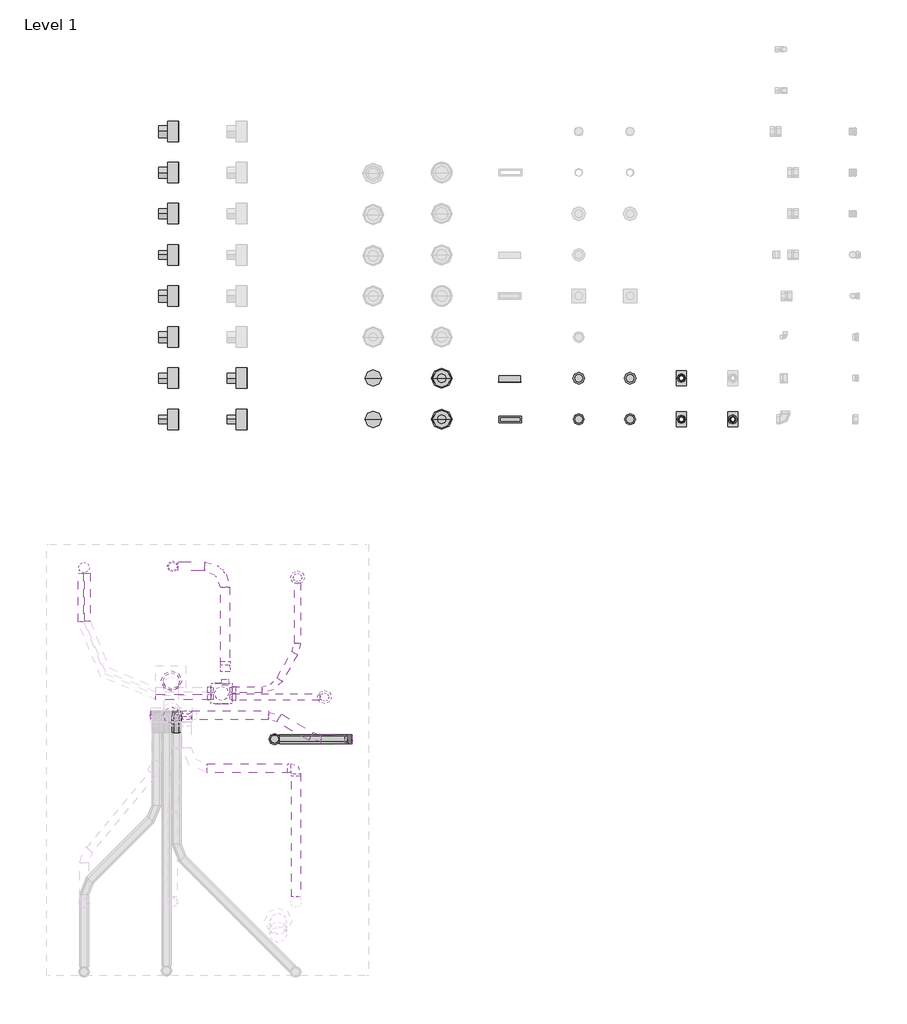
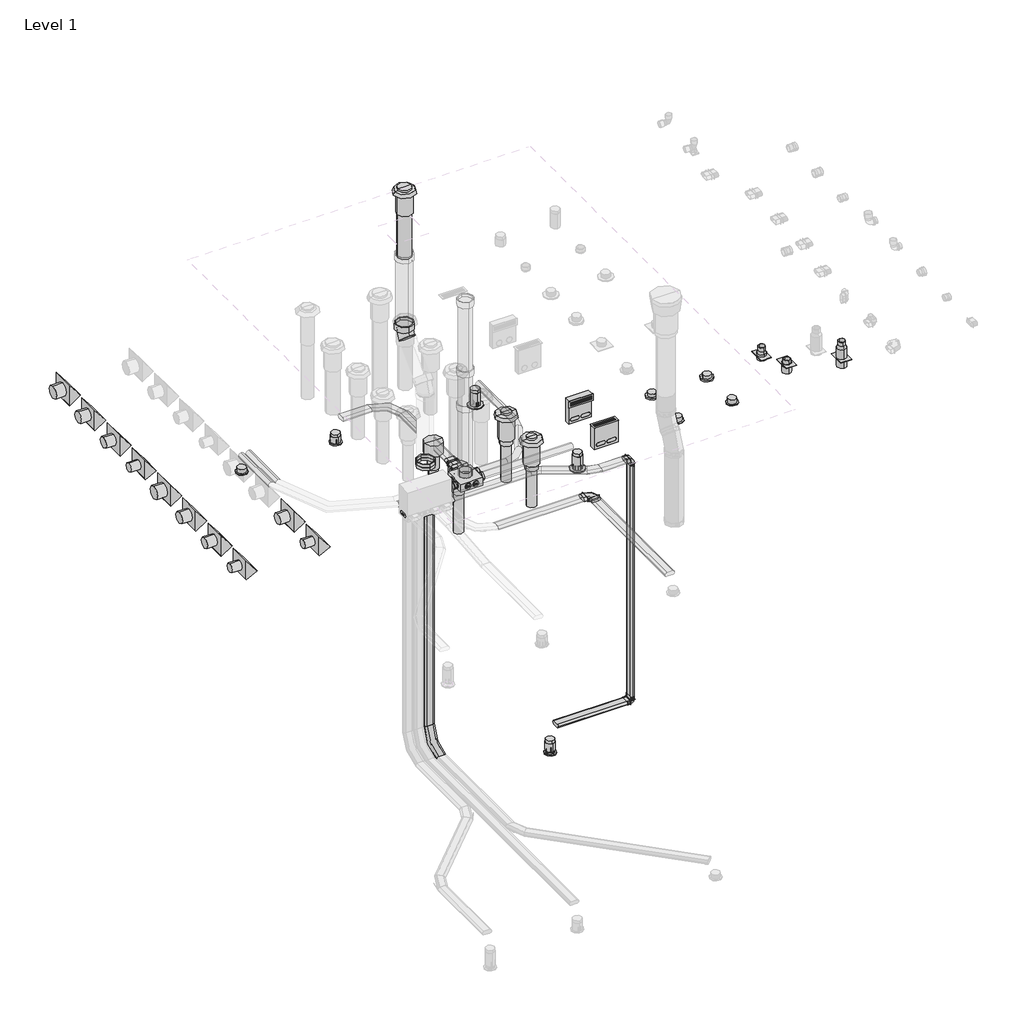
# One storey, part 2 of 5: 28 air terminals, 27 duct segments, 25 duct fittings, 1 covering.
"""IFC4 building model written with IfcOpenShell, lengths in millimetres."""

from ifc_helpers import new_model, si_unit, point, frame, frame_2d, origin, place, context, project, spatial, polyline, circle_curve, trimmed, segment, composite_curve, outline, extrude, transform, mapped, element, save
from components import air_terminal_684b394b, air_terminal_d9da2656, air_terminal_5d0dc36f, air_terminal_abea36ea, air_terminal_f5742492, air_terminal_9fb1d9b7, air_terminal_ad92f96e, black_125_071c14e0, black_150_34886671, black_160_5426341e, black_180_da10aded, disc_9b21ed11, floor_plenum_26bd6e9d, grille_332x94_5d2099c3, wall_plenum_481a3a47, wave_6b82bb6b, covering_845dcc57, duct_fitting_a03f7b8a, duct_fitting_80feda44, duct_fitting_af19edac, duct_fitting_265251c9, duct_fitting_0a36da2e, duct_fitting_a33ba128, duct_fitting_7ef48b03, duct_fitting_5a710104, duct_fitting_66600ef7, duct_fitting_84124fbc, duct_fitting_f3df8d97, duct_fitting_132x52_fc9fea9f, duct_fitting_132x52_0ce7a236, duct_fitting_132x52_95183a23, duct_fitting_132x52_nested_272e3c26, epp_d34e0886, duct_segment_ae39d81a, duct_segment_a98b25c4, duct_segment_a7808f3f, duct_segment_35683ce1, duct_segment_1deb6c9c, extract_132x52_red_0ccfaded, supply_132x52_blue_ae1e8619, supply_132x52_blue_a913f8ed

model = new_model("IFC4")

# Units and contexts
model_context = context("Model", 3, world=origin())
ifc_project = project(units=[si_unit("LENGTHUNIT", "METRE", prefix="MILLI")], contexts=[model_context])

# Site, building, storey
site = spatial("IfcSite", under=ifc_project)
building = spatial("IfcBuilding", under=site)
storey = spatial("IfcBuildingStorey", under=building, Name="Level 1", Elevation=0.0)

# Air terminals
placement = place(None, origin())
air_terminal_shape = air_terminal_684b394b(model_context)
element("IfcAirTerminal", 1, ObjectType="NLRS_57_AIR_WPB_roof ventilation terminals_M&G : EPS Black, ø125 - L=1000mm", at=placement, inside=storey, context=model_context, shape_type="MappedRepresentation", body=[
    mapped(air_terminal_shape, transform((-12492.1903803, 6819.2351178, 0.0), x_axis=(1.0, 0.0, 0.0), y_axis=(0.0, 1.0, 0.0), z_axis=(0.0, 0.0, 1.0))),
])
air_terminal_2_shape = air_terminal_d9da2656(model_context)
element("IfcAirTerminal", 2, ObjectType="NLRS_57_AIR_WPB_roof ventilation terminals_M&G : EPS Black, ø130 - L=1000mm", at=placement, inside=storey, context=model_context, shape_type="MappedRepresentation", body=[
    mapped(air_terminal_2_shape, transform((-12492.1903803, 7419.2351178, 0.0), x_axis=(1.0, 0.0, 0.0), y_axis=(0.0, 1.0, 0.0), z_axis=(0.0, 0.0, 1.0))),
])
air_terminal_3_shape = air_terminal_5d0dc36f(model_context)
element("IfcAirTerminal", 3, ObjectType="NLRS_57_AIR_WPB_megavent roof ventilation terminals_M&G : PP Black, ø125", at=placement, inside=storey, context=model_context, shape_type="MappedRepresentation", body=[
    mapped(air_terminal_3_shape, transform((-13492.1903803, 6819.2351178, 0.0), x_axis=(1.0, 0.0, 0.0), y_axis=(0.0, 1.0, 0.0), z_axis=(0.0, 0.0, 1.0))),
])
element("IfcAirTerminal", 4, ObjectType="NLRS_57_AIR_WPB_megavent roof ventilation terminals_M&G : PP Terra, ø125", at=placement, inside=storey, context=model_context, shape_type="MappedRepresentation", body=[
    mapped(air_terminal_3_shape, transform((-13492.1903803, 7419.2351178, 0.0), x_axis=(1.0, 0.0, 0.0), y_axis=(0.0, 1.0, 0.0), z_axis=(0.0, 0.0, 1.0))),
])
air_terminal_4_shape = air_terminal_abea36ea(model_context)
element("IfcAirTerminal", 5, ObjectType="NLRS_57_AIR_WPB_roof ventilation terminals_M&G : EPS Black, ø180 - L=1000mm", at=placement, inside=storey, context=model_context, shape_type="MappedRepresentation", body=[
    mapped(air_terminal_4_shape, transform((-16438.4693878, 3001.6183718, 7412.0589956), x_axis=(1.0, 0.0, 0.0), y_axis=(0.0, 1.0, 0.0), z_axis=(0.0, 0.0, 1.0))),
])
air_terminal_5_shape = air_terminal_f5742492(model_context)
element("IfcAirTerminal", 6, ObjectType="NLRS_57_AIR_WPB_extraction air valve_M&G : Kwadrant", at=placement, inside=storey, context=model_context, shape_type="MappedRepresentation", body=[
    mapped(air_terminal_5_shape, transform((-16418.4693878, 4670.9337944, 3067.0932214), x_axis=(1.0, 0.0, 0.0), y_axis=(0.0, 1.0, 0.0), z_axis=(0.0, 0.0, 1.0))),
])
air_terminal_6_shape = air_terminal_9fb1d9b7(model_context)
element("IfcAirTerminal", 7, ObjectType="NLRS_57_AIR_WPB_extraction air valve_M&G : Conus", at=placement, inside=storey, context=model_context, shape_type="MappedRepresentation", body=[
    mapped(air_terminal_6_shape, transform((-17715.4983661, 4654.1857295, 3098.9990448), x_axis=(1.0, 0.0, 0.0), y_axis=(0.0, 1.0, 0.0), z_axis=(0.0, 0.0, 1.0))),
])
air_terminal_7_shape = air_terminal_ad92f96e(model_context)
element("IfcAirTerminal", 8, ObjectType="NLRS_57_AIR_WPB_supply air valve_M&G : Conus", at=placement, inside=storey, context=model_context, shape_type="MappedRepresentation", body=[
    mapped(air_terminal_7_shape, transform((-14932.7818193, 2151.6938776, -388.9153196), x_axis=(1.0, 0.0, 0.0), y_axis=(0.0, 1.0, 0.0), z_axis=(0.0, 0.0, 1.0))),
])
element("IfcAirTerminal", 9, ObjectType="NLRS_57_AIR_WPB_extraction air valve_M&G : Conus", at=placement, inside=storey, context=model_context, shape_type="MappedRepresentation", body=[
    mapped(air_terminal_6_shape, transform((-10492.1903803, 6819.2351178, 0.0), x_axis=(1.0, 0.0, 0.0), y_axis=(0.0, 1.0, 0.0), z_axis=(0.0, 0.0, 1.0))),
])
element("IfcAirTerminal", 10, ObjectType="NLRS_57_AIR_WPB_supply air valve_M&G : Conus", at=placement, inside=storey, context=model_context, shape_type="MappedRepresentation", body=[
    mapped(air_terminal_6_shape, transform((-9742.1903803, 6819.2351178, 0.0), x_axis=(1.0, 0.0, 0.0), y_axis=(0.0, 1.0, 0.0), z_axis=(0.0, 0.0, 1.0))),
])
black_125_shape = black_125_071c14e0(model_context)
element("IfcAirTerminal", 11, ObjectType="NLRS_57_AIR_LB_walloutlet terminals_M&G : Black 125", at=placement, inside=storey, context=model_context, shape_type="MappedRepresentation", body=[
    mapped(black_125_shape, transform((-16492.1903803, 6819.2351178, 0.0), x_axis=(1.0, 0.0, 0.0), y_axis=(0.0, 1.0, 0.0), z_axis=(0.0, 0.0, 1.0))),
])
black_150_shape = black_150_34886671(model_context)
element("IfcAirTerminal", 12, ObjectType="NLRS_57_AIR_LB_walloutlet terminals_M&G : Black 150", at=placement, inside=storey, context=model_context, shape_type="MappedRepresentation", body=[
    mapped(black_150_shape, transform((-16492.1903803, 7419.2351178, 0.0), x_axis=(1.0, 0.0, 0.0), y_axis=(0.0, 1.0, 0.0), z_axis=(0.0, 0.0, 1.0))),
])
black_160_shape = black_160_5426341e(model_context)
element("IfcAirTerminal", 13, ObjectType="NLRS_57_AIR_LB_walloutlet terminals_M&G : Black 160", at=placement, inside=storey, context=model_context, shape_type="MappedRepresentation", body=[
    mapped(black_160_shape, transform((-16492.1903803, 8019.2351178, 0.0), x_axis=(1.0, 0.0, 0.0), y_axis=(0.0, 1.0, 0.0), z_axis=(0.0, 0.0, 1.0))),
])
black_180_shape = black_180_da10aded(model_context)
element("IfcAirTerminal", 14, ObjectType="NLRS_57_AIR_LB_walloutlet terminals_M&G : Black 180", at=placement, inside=storey, context=model_context, shape_type="MappedRepresentation", body=[
    mapped(black_180_shape, transform((-16492.1903803, 8619.2351178, 0.0), x_axis=(1.0, 0.0, 0.0), y_axis=(0.0, 1.0, 0.0), z_axis=(0.0, 0.0, 1.0))),
])
disc_shape = disc_9b21ed11(model_context)
element("IfcAirTerminal", 15, ObjectType="NLRS_57_AIR_WPB_extraction air valve_M&G : Disc", at=placement, inside=storey, context=model_context, shape_type="MappedRepresentation", body=[
    mapped(disc_shape, transform((-10492.1903803, 7419.2351178, 0.0), x_axis=(1.0, 0.0, 0.0), y_axis=(0.0, 1.0, 0.0), z_axis=(0.0, 0.0, 1.0))),
])
element("IfcAirTerminal", 16, ObjectType="NLRS_57_AIR_WPB_supply air valve_M&G : Disc", at=placement, inside=storey, context=model_context, shape_type="MappedRepresentation", body=[
    mapped(disc_shape, transform((-9742.1903803, 7419.2351178, 0.0), x_axis=(1.0, 0.0, 0.0), y_axis=(0.0, 1.0, 0.0), z_axis=(0.0, 0.0, 1.0))),
])
floor_plenum_shape = floor_plenum_26bd6e9d(model_context)
element("IfcAirTerminal", 17, ObjectType="NLRS_57_AIR_LB_wall_floor mounted plenum oval with grill_M&G : Floor plenum", at=placement, inside=storey, context=model_context, shape_type="MappedRepresentation", body=[
    mapped(floor_plenum_shape, transform((-11492.1903803, 6819.2351178, 0.0), x_axis=(1.0, 0.0, 0.0), y_axis=(0.0, 1.0, 0.0), z_axis=(0.0, 0.0, 1.0))),
])
grille_332x94_shape = grille_332x94_5d2099c3(model_context)
element("IfcAirTerminal", 18, ObjectType="NLRS_57_AIR_WPB_grille for plenum_M&G : Grille 332x94", at=placement, inside=storey, context=model_context, shape_type="MappedRepresentation", body=[
    mapped(grille_332x94_shape, transform((-11492.1903803, 6819.2351178, 310.0), x_axis=(1.0, 0.0, 0.0), y_axis=(0.0, -1.0, 0.0), z_axis=(0.0, 0.0, -1.0))),
])
element("IfcAirTerminal", 19, ObjectType="NLRS_57_AIR_WPB_grille for plenum_M&G : Grille 332x94", at=placement, inside=storey, context=model_context, shape_type="MappedRepresentation", body=[
    mapped(grille_332x94_shape, transform((-11500.4403803, 7365.7351178, 297.0), x_axis=(1.0, 0.0, 0.0), y_axis=(0.0, 0.0, -1.0), z_axis=(0.0, 1.0, 0.0))),
])
element("IfcAirTerminal", 20, ObjectType="NLRS_57_AIR_LB_walloutlet terminals_M&G : Terracotta 125", at=placement, inside=storey, context=model_context, shape_type="MappedRepresentation", body=[
    mapped(black_125_shape, transform((-16492.1903803, 9219.2351178, 0.0), x_axis=(1.0, 0.0, 0.0), y_axis=(0.0, 1.0, 0.0), z_axis=(0.0, 0.0, 1.0))),
])
element("IfcAirTerminal", 21, ObjectType="NLRS_57_AIR_LB_walloutlet terminals_M&G : Terracotta 150", at=placement, inside=storey, context=model_context, shape_type="MappedRepresentation", body=[
    mapped(black_150_shape, transform((-16492.1903803, 9819.2351178, 0.0), x_axis=(1.0, 0.0, 0.0), y_axis=(0.0, 1.0, 0.0), z_axis=(0.0, 0.0, 1.0))),
])
element("IfcAirTerminal", 22, ObjectType="NLRS_57_AIR_LB_walloutlet terminals_M&G : Terracotta 160", at=placement, inside=storey, context=model_context, shape_type="MappedRepresentation", body=[
    mapped(black_160_shape, transform((-16492.1903803, 10419.2351178, 0.0), x_axis=(1.0, 0.0, 0.0), y_axis=(0.0, 1.0, 0.0), z_axis=(0.0, 0.0, 1.0))),
])
element("IfcAirTerminal", 23, ObjectType="NLRS_57_AIR_LB_walloutlet terminals_M&G : Terracotta 180", at=placement, inside=storey, context=model_context, shape_type="MappedRepresentation", body=[
    mapped(black_180_shape, transform((-16492.1903803, 11019.2351178, 0.0), x_axis=(1.0, 0.0, 0.0), y_axis=(0.0, 1.0, 0.0), z_axis=(0.0, 0.0, 1.0))),
])
element("IfcAirTerminal", 24, ObjectType="NLRS_57_AIR_LB_walloutlet terminals_M&G : Unpainted aluminium 125", at=placement, inside=storey, context=model_context, shape_type="MappedRepresentation", body=[
    mapped(black_125_shape, transform((-15492.1903803, 6819.2351178, 0.0), x_axis=(1.0, 0.0, 0.0), y_axis=(0.0, 1.0, 0.0), z_axis=(0.0, 0.0, 1.0))),
])
element("IfcAirTerminal", 25, ObjectType="NLRS_57_AIR_LB_walloutlet terminals_M&G : Unpainted aluminium 150", at=placement, inside=storey, context=model_context, shape_type="MappedRepresentation", body=[
    mapped(black_150_shape, transform((-15492.1903803, 7419.2351178, 0.0), x_axis=(1.0, 0.0, 0.0), y_axis=(0.0, 1.0, 0.0), z_axis=(0.0, 0.0, 1.0))),
])
wall_plenum_shape = wall_plenum_481a3a47(model_context)
element("IfcAirTerminal", 26, ObjectType="NLRS_57_AIR_LB_wall_floor mounted plenum oval with grill_M&G : Wall plenum", at=placement, inside=storey, context=model_context, shape_type="MappedRepresentation", body=[
    mapped(wall_plenum_shape, transform((-11500.4403803, 7419.2351178, 0.0), x_axis=(1.0, 0.0, 0.0), y_axis=(0.0, 1.0, 0.0), z_axis=(0.0, 0.0, 1.0))),
])
ifc_wave_shape = wave_6b82bb6b(model_context)
element("IfcAirTerminal", 27, ObjectType="NLRS_57_AIR_WPB_extraction air valve_M&G : Wave", at=placement, inside=storey, context=model_context, shape_type="MappedRepresentation", body=[
    mapped(ifc_wave_shape, transform((-14596.7967228, 4509.430033, 3061.5), x_axis=(1.0, 0.0, 0.0), y_axis=(0.0, 1.0, 0.0), z_axis=(0.0, 0.0, 1.0))),
])
element("IfcAirTerminal", 28, ObjectType="NLRS_57_AIR_WPB_extraction air valve_M&G : Wave", at=placement, inside=storey, context=model_context, shape_type="MappedRepresentation", body=[
    mapped(ifc_wave_shape, transform((-14202.8736216, 2765.7568536, 3061.5), x_axis=(1.0, 0.0, 0.0), y_axis=(0.0, 1.0, 0.0), z_axis=(0.0, 0.0, 1.0))),
])

# Covering
covering_shape = covering_845dcc57(model_context)
element("IfcCovering", 29, ObjectType="NLRS_57_DUF_UN_valve extension_M&G : L=40", at=placement, inside=storey, context=model_context, shape_type="MappedRepresentation", body=[
    mapped(covering_shape, transform((-14932.7818193, 2151.6938776, -428.9153196), x_axis=(1.0, 0.0, 0.0), y_axis=(0.0, 1.0, 0.0), z_axis=(0.0, 0.0, 1.0))),
])

# Duct fittings
duct_fitting_shape = duct_fitting_a03f7b8a(model_context)
element("IfcDuctFitting", 30, ObjectType="NLRS_57_DUF_UN_terminal connection straight_M&G : ø117 - ø125 / ø92", at=placement, inside=storey, context=model_context, shape_type="MappedRepresentation", body=[
    mapped(duct_fitting_shape, transform((-8242.1903803, 6819.2351178, 360.0), x_axis=(0.0, 0.0, -1.0000000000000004), y_axis=(0.0, 1.0000000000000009, 0.0), z_axis=(1.0000000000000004, 0.0, 0.0))),
])
duct_fitting_2_shape = duct_fitting_80feda44(model_context)
element("IfcDuctFitting", 31, ObjectType="NLRS_57_DUF_UN_terminal extension_M&G : 117/125mm", at=placement, inside=storey, context=model_context, shape_type="MappedRepresentation", body=[
    mapped(duct_fitting_2_shape, transform((-14932.7818193, 2151.6938776, -388.9153196), x_axis=(0.0, 0.0, 1.0), y_axis=(0.0, -1.0, 0.0), z_axis=(1.0, 0.0, 0.0))),
])
duct_fitting_3_shape = duct_fitting_af19edac(model_context)
element("IfcDuctFitting", 32, ObjectType="NLRS_57_DUF_UN_bend EPP_M&G : ø125 - ø180", at=placement, inside=storey, context=model_context, shape_type="MappedRepresentation", body=[
    mapped(duct_fitting_3_shape, transform((-16438.4693878, 3001.6183718, 5679.0589956), x_axis=(0.0, 0.7071067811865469, 0.7071067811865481), y_axis=(0.0, -0.7071067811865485, 0.7071067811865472), z_axis=(1.0000000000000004, 0.0, 0.0))),
])
duct_fitting_4_shape = duct_fitting_265251c9(model_context)
element("IfcDuctFitting", 33, ObjectType="NLRS_57_DUF_UN_air extraction plenum square 300x300_M&G : 225#8 (H=110)", at=placement, inside=storey, context=model_context, shape_type="MappedRepresentation", body=[
    mapped(duct_fitting_4_shape, transform((-15705.9803294, 2818.2568536, 3343.5), x_axis=(1.0, 0.0, 0.0), y_axis=(0.0, 1.0, 0.0), z_axis=(0.0, 0.0, 1.0))),
])
duct_fitting_5_shape = duct_fitting_0a36da2e(model_context)
element("IfcDuctFitting", 34, ObjectType="NLRS_57_DUF_UN_terminal extension_M&G : 117/125mm", at=placement, inside=storey, context=model_context, shape_type="MappedRepresentation", body=[
    mapped(duct_fitting_5_shape, transform((-14596.7967228, 4509.430033, 3061.5), x_axis=(0.0, 0.0, 1.0), y_axis=(0.0, -1.0, 0.0), z_axis=(1.0, 0.0, 0.0))),
])
element("IfcDuctFitting", 35, ObjectType="NLRS_57_DUF_UN_terminal extension_M&G : 117/125mm", at=placement, inside=storey, context=model_context, shape_type="MappedRepresentation", body=[
    mapped(duct_fitting_5_shape, transform((-14202.8736216, 2765.7568536, 3061.5), x_axis=(0.0, 0.0, 1.0), y_axis=(0.0, -1.0, 0.0), z_axis=(1.0, 0.0, 0.0))),
])
duct_fitting_6_shape = duct_fitting_a33ba128(model_context)
element("IfcDuctFitting", 36, ObjectType="NLRS_57_DUF_UN_terminal extension_M&G : 117/125mm", at=placement, inside=storey, context=model_context, shape_type="MappedRepresentation", body=[
    mapped(duct_fitting_6_shape, transform((-16418.4693878, 4670.9337944, 3067.0932214), x_axis=(0.0, 0.0, 1.0), y_axis=(0.0, -1.0, 0.0), z_axis=(1.0, 0.0, 0.0))),
])
duct_fitting_7_shape = duct_fitting_7ef48b03(model_context)
element("IfcDuctFitting", 37, ObjectType="NLRS_57_DUF_UN_terminal connection straight_M&G : ø117 - ø125 / ø92", at=placement, inside=storey, context=model_context, shape_type="MappedRepresentation", body=[
    mapped(duct_fitting_7_shape, transform((-8992.1903803, 7419.2351178, 180.0), x_axis=(0.0, 0.0, -1.0000000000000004), y_axis=(0.0, 1.0000000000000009, 0.0), z_axis=(1.0000000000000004, 0.0, 0.0))),
])
duct_fitting_8_shape = duct_fitting_5a710104(model_context)
element("IfcDuctFitting", 38, ObjectType="NLRS_57_DUF_UN_terminal connection straight_M&G : ø117 - ø125 / ø92", at=placement, inside=storey, context=model_context, shape_type="MappedRepresentation", body=[
    mapped(duct_fitting_8_shape, transform((-8992.1903803, 6819.2351178, 360.0), x_axis=(0.0, 0.0, -1.0000000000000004), y_axis=(0.0, 1.0000000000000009, 0.0), z_axis=(1.0000000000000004, 0.0, 0.0))),
])
duct_fitting_9_shape = duct_fitting_66600ef7(model_context)
element("IfcDuctFitting", 39, ObjectType="NLRS_57_DUF_UN_dummy cap round_M&G : ø78", at=placement, inside=storey, context=model_context, shape_type="MappedRepresentation", body=[
    mapped(duct_fitting_9_shape, transform((-15653.4803294, 2666.2568536, 3399.5), x_axis=(0.0, -1.0, 0.0), y_axis=(1.0, 0.0, 0.0), z_axis=(0.0, 0.0, 1.0))),
])
element("IfcDuctFitting", 40, ObjectType="NLRS_57_DUF_UN_dummy cap round_M&G : ø78", at=placement, inside=storey, context=model_context, shape_type="MappedRepresentation", body=[
    mapped(duct_fitting_9_shape, transform((-15758.4803294, 2666.2568536, 3399.5), x_axis=(0.0, -1.0, 0.0), y_axis=(1.0, 0.0, 0.0), z_axis=(0.0, 0.0, 1.0))),
])
element("IfcDuctFitting", 41, ObjectType="NLRS_57_DUF_UN_dummy cap round_M&G : ø78", at=placement, inside=storey, context=model_context, shape_type="MappedRepresentation", body=[
    mapped(duct_fitting_9_shape, transform((-15758.4803294, 2970.2568536, 3399.5), x_axis=(0.0, 1.0, 0.0), y_axis=(-1.0, 0.0, 0.0), z_axis=(0.0, 0.0, 1.0))),
])
duct_fitting_10_shape = duct_fitting_84124fbc(model_context)
element("IfcDuctFitting", 42, ObjectType="NLRS_57_DUF_UN_connection piece round_M&G : ø75", at=placement, inside=storey, context=model_context, shape_type="MappedRepresentation", body=[
    mapped(duct_fitting_10_shape, transform((-15857.9803294, 2870.7568536, 3399.5), x_axis=(-1.0, 0.0, 0.0), y_axis=(0.0, -1.0, 0.0), z_axis=(0.0, 0.0, 1.0))),
])
element("IfcDuctFitting", 43, ObjectType="NLRS_57_DUF_UN_connection piece round_M&G : ø75", at=placement, inside=storey, context=model_context, shape_type="MappedRepresentation", body=[
    mapped(duct_fitting_10_shape, transform((-15857.9803294, 2765.7568536, 3399.5), x_axis=(-1.0, 0.0, 0.0), y_axis=(0.0, -1.0, 0.0), z_axis=(0.0, 0.0, 1.0))),
])
duct_fitting_11_shape = duct_fitting_f3df8d97(model_context)
element("IfcDuctFitting", 44, ObjectType="NLRS_57_DUF_UN_connection piece round_M&G : ø92", at=placement, inside=storey, context=model_context, shape_type="MappedRepresentation", body=[
    mapped(duct_fitting_11_shape, transform((-15553.9803294, 2870.7568536, 3399.5), x_axis=(1.0, 0.0, 0.0), y_axis=(0.0, 1.0, 0.0), z_axis=(0.0, 0.0, 1.0))),
])
element("IfcDuctFitting", 45, ObjectType="NLRS_57_DUF_UN_connection piece round_M&G : ø92", at=placement, inside=storey, context=model_context, shape_type="MappedRepresentation", body=[
    mapped(duct_fitting_11_shape, transform((-15553.9803294, 2765.7568536, 3399.5), x_axis=(1.0, 0.0, 0.0), y_axis=(0.0, 1.0, 0.0), z_axis=(0.0, 0.0, 1.0))),
])
element("IfcDuctFitting", 46, ObjectType="NLRS_57_DUF_UN_connection piece round_M&G : ø92", at=placement, inside=storey, context=model_context, shape_type="MappedRepresentation", body=[
    mapped(duct_fitting_11_shape, transform((-15653.4803294, 2970.2568536, 3399.5), x_axis=(0.0, 1.0, 0.0), y_axis=(-1.0, 0.0, 0.0), z_axis=(0.0, 0.0, 1.0))),
])
duct_fitting_132x52_shape = duct_fitting_132x52_fc9fea9f(model_context)
element("IfcDuctFitting", 47, ObjectType="NLRS_57_DUF_UN_bend horizontal_M&G : 132x52", at=placement, inside=storey, context=model_context, shape_type="MappedRepresentation", body=[
    mapped(duct_fitting_132x52_shape, transform((-14618.4693878, 1727.9337944, 3440.6345013), x_axis=(0.0, 1.0, 0.0), y_axis=(-1.0, 0.0, 0.0), z_axis=(0.0, 0.0, 1.0))),
])
duct_fitting_132x52_2_shape = duct_fitting_132x52_0ce7a236(model_context)
element("IfcDuctFitting", 48, ObjectType="NLRS_57_DUF_UN_bend vertical v2_M&G : 132x52", at=placement, inside=storey, context=model_context, shape_type="MappedRepresentation", body=[
    mapped(duct_fitting_132x52_2_shape, transform((-13831.2516051, 2151.6938776, 3440.6345013), x_axis=(1.0, 0.0, 0.0), y_axis=(0.0, 0.0, -1.0), z_axis=(0.0, 1.0, 0.0))),
])
element("IfcDuctFitting", 49, ObjectType="NLRS_57_DUF_UN_bend vertical v2_M&G : 132x52", at=placement, inside=storey, context=model_context, shape_type="MappedRepresentation", body=[
    mapped(duct_fitting_132x52_2_shape, transform((-13831.2516051, 2151.6938776, -54.0), x_axis=(0.0, 0.0, -1.0), y_axis=(-1.0, 0.0, 0.0), z_axis=(0.0, 1.0, 0.0))),
])
duct_fitting_132x52_3_shape = duct_fitting_132x52_95183a23(model_context)
element("IfcDuctFitting", 50, ObjectType="NLRS_57_DUF_UN_dummy cap oval_M&G : 132x52", at=placement, inside=storey, context=model_context, shape_type="MappedRepresentation", body=[
    mapped(duct_fitting_132x52_3_shape, transform((-16219.4693878, 2461.6938776, 3384.1345013), x_axis=(0.0, 0.0, -1.0), y_axis=(1.0, 0.0, 0.0), z_axis=(0.0, -1.0, 0.0))),
])
element("IfcDuctFitting", 51, ObjectType="NLRS_57_DUF_UN_dummy cap oval_M&G : 132x52", at=placement, inside=storey, context=model_context, shape_type="MappedRepresentation", body=[
    mapped(duct_fitting_132x52_3_shape, transform((-16219.4693878, 2541.6938776, 3384.1345013), x_axis=(0.0, 0.0, -1.0), y_axis=(1.0, 0.0, 0.0), z_axis=(0.0, -1.0, 0.0))),
])
element("IfcDuctFitting", 52, ObjectType="NLRS_57_DUF_UN_dummy cap oval_M&G : 132x52", at=placement, inside=storey, context=model_context, shape_type="MappedRepresentation", body=[
    mapped(duct_fitting_132x52_3_shape, transform((-16739.4693878, 2501.6938776, 3440.6345013), x_axis=(-1.0, 0.0, 0.0), y_axis=(0.0, -1.0, 0.0), z_axis=(0.0, 0.0, 1.0))),
])
duct_fitting_132x52_nested_shape = duct_fitting_132x52_nested_272e3c26(model_context)
element("IfcDuctFitting", 53, ObjectType="NLRS_57_DUF_UN_sleeve joint oval-SH_M&G : 132x52 (nested)", at=placement, inside=storey, context=model_context, shape_type="MappedRepresentation", body=[
    mapped(duct_fitting_132x52_nested_shape, transform((-15653.4803294, 3210.7568536, 3376.5), x_axis=(0.0, -1.0, 0.0), y_axis=(-1.0, 0.0, 0.0), z_axis=(0.0, 0.0, -1.0))),
])
epp_shape = epp_d34e0886(model_context)
element("IfcDuctFitting", 54, ObjectType="NLRS_57_DUF_UN_sleeve joint EPP_M&G : EPP", at=placement, inside=storey, context=model_context, shape_type="MappedRepresentation", body=[
    mapped(epp_shape, transform((-16438.4693878, 2501.6938776, 4082.6345013), x_axis=(0.0, 0.0, 1.0), y_axis=(0.0, -1.0, 0.0), z_axis=(1.0, 0.0, 0.0))),
])

# Duct segments
element("IfcDuctSegment", 55, ObjectType="NLRS_57.40_DU_Hybalans supply_M&G", at=placement, inside=storey, context=model_context, shape_type="SweptSolid", body=[
    extrude(outline(composite_curve([segment(polyline([(2461.6938776, 3466.6345013), (2541.6938776, 3466.6345013)]), True, "CONTINUOUS"), segment(trimmed(circle_curve(frame_2d((2541.6938776, 3440.6345013)), 26.0), [point((2541.6938776, 3466.6345013))], [point((2567.6938776, 3440.6345013))], False, "CARTESIAN"), True, "CONTINUOUS"), segment(trimmed(circle_curve(frame_2d((2541.6938776, 3440.6345013)), 26.0), [point((2567.6938776, 3440.6345013))], [point((2541.6938776, 3414.6345013))], False, "CARTESIAN"), True, "CONTINUOUS"), segment(polyline([(2541.6938776, 3414.6345013), (2461.6938776, 3414.6345013)]), True, "CONTINUOUS"), segment(trimmed(circle_curve(frame_2d((2461.6938776, 3440.6345013)), 26.0), [point((2461.6938776, 3414.6345013))], [point((2435.6938776, 3440.6345013))], False, "CARTESIAN"), True, "CONTINUOUS"), segment(trimmed(circle_curve(frame_2d((2461.6938776, 3440.6345013)), 26.0), [point((2435.6938776, 3440.6345013))], [point((2461.6938776, 3466.6345013))], False, "CARTESIAN"), True, "CONTINUOUS")], self_intersect=False)), frame((-16137.4693878, 0.0, 0.0), z_axis=(1.0, 0.0, 0.0), x_axis=(0.0, 1.0, 0.0)), (0.0, 0.0, 1.0), 1119.6152423),
])
element("IfcDuctSegment", 56, ObjectType="NLRS_57.40_DU_Hybalans supply_M&G", at=placement, inside=storey, context=model_context, shape_type="SweptSolid", body=[
    extrude(outline(composite_curve([segment(trimmed(circle_curve(frame_2d((-40.0, -66.0)), 26.0), [point((-40.0, -92.0))], [point((-66.0, -66.0))], False, "CARTESIAN"), True, "CONTINUOUS"), segment(trimmed(circle_curve(frame_2d((-40.0, -66.0)), 26.0), [point((-66.0, -66.0))], [point((-40.0, -40.0))], False, "CARTESIAN"), True, "CONTINUOUS"), segment(polyline([(-40.0, -40.0), (40.0, -40.0)]), True, "CONTINUOUS"), segment(trimmed(circle_curve(frame_2d((40.0, -66.0)), 26.0), [point((40.0, -40.0))], [point((66.0, -66.0))], False, "CARTESIAN"), True, "CONTINUOUS"), segment(trimmed(circle_curve(frame_2d((40.0, -66.0)), 26.0), [point((66.0, -66.0))], [point((40.0, -92.0))], False, "CARTESIAN"), True, "CONTINUOUS"), segment(polyline([(40.0, -92.0), (-40.0, -92.0)]), True, "CONTINUOUS")], self_intersect=False)), frame((-14400.8668474, 2191.8862564, 3374.6345013), z_axis=(-0.8660254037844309, 0.5000000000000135, 0.0), x_axis=(0.5000000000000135, 0.8660254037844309, 0.0)), (0.0, 0.0, 1.0), 539.2304845),
])
element("IfcDuctSegment", 57, ObjectType="NLRS_57.40_DU_Hybalans supply_M&G", at=placement, inside=storey, context=model_context, shape_type="SweptSolid", body=[
    extrude(outline(composite_curve([segment(polyline([(2111.6938776, 3466.6345013), (2191.6938776, 3466.6345013)]), True, "CONTINUOUS"), segment(trimmed(circle_curve(frame_2d((2191.6938776, 3440.6345013)), 26.0), [point((2191.6938776, 3466.6345013))], [point((2217.6938776, 3440.6345013))], False, "CARTESIAN"), True, "CONTINUOUS"), segment(trimmed(circle_curve(frame_2d((2191.6938776, 3440.6345013)), 26.0), [point((2217.6938776, 3440.6345013))], [point((2191.6938776, 3414.6345013))], False, "CARTESIAN"), True, "CONTINUOUS"), segment(polyline([(2191.6938776, 3414.6345013), (2111.6938776, 3414.6345013)]), True, "CONTINUOUS"), segment(trimmed(circle_curve(frame_2d((2111.6938776, 3440.6345013)), 26.0), [point((2111.6938776, 3414.6345013))], [point((2085.6938776, 3440.6345013))], False, "CARTESIAN"), True, "CONTINUOUS"), segment(trimmed(circle_curve(frame_2d((2111.6938776, 3440.6345013)), 26.0), [point((2085.6938776, 3440.6345013))], [point((2111.6938776, 3466.6345013))], False, "CARTESIAN"), True, "CONTINUOUS")], self_intersect=False)), frame((-14250.8668474, 0.0, 0.0), z_axis=(1.0, 0.0, 0.0), x_axis=(0.0, 1.0, 0.0)), (0.0, 0.0, 1.0), 384.6152423),
])
element("IfcDuctSegment", 58, ObjectType="NLRS_57.40_DU_Hybalans supply_M&G", at=placement, inside=storey, context=model_context, shape_type="SweptSolid", body=[
    extrude(outline(composite_curve([segment(trimmed(circle_curve(frame_2d((-13831.2516051, 2191.6938776)), 26.0), [point((-13857.2516051, 2191.6938776))], [point((-13831.2516051, 2217.6938776))], False, "CARTESIAN"), True, "CONTINUOUS"), segment(trimmed(circle_curve(frame_2d((-13831.2516051, 2191.6938776)), 26.0), [point((-13831.2516051, 2217.6938776))], [point((-13805.2516051, 2191.6938776))], False, "CARTESIAN"), True, "CONTINUOUS"), segment(polyline([(-13805.2516051, 2191.6938776), (-13805.2516051, 2111.6938776)]), True, "CONTINUOUS"), segment(trimmed(circle_curve(frame_2d((-13831.2516051, 2111.6938776)), 26.0), [point((-13805.2516051, 2111.6938776))], [point((-13831.2516051, 2085.6938776))], False, "CARTESIAN"), True, "CONTINUOUS"), segment(trimmed(circle_curve(frame_2d((-13831.2516051, 2111.6938776)), 26.0), [point((-13831.2516051, 2085.6938776))], [point((-13857.2516051, 2111.6938776))], False, "CARTESIAN"), True, "CONTINUOUS"), segment(polyline([(-13857.2516051, 2111.6938776), (-13857.2516051, 2191.6938776)]), True, "CONTINUOUS")], self_intersect=False)), frame((0.0, 0.0, -19.0), z_axis=(0.0, 0.0, 1.0), x_axis=(1.0, 0.0, 0.0)), (0.0, 0.0, 1.0), 3424.6345013),
])
element("IfcDuctSegment", 59, ObjectType="NLRS_57.40_DU_Hybalans supply_M&G", at=placement, inside=storey, context=model_context, shape_type="SweptSolid", body=[
    extrude(outline(composite_curve([segment(polyline([(3466.6345013, -14578.4693878), (3466.6345013, -14658.4693878)]), True, "CONTINUOUS"), segment(trimmed(circle_curve(frame_2d((3440.6345013, -14658.4693878)), 26.0), [point((3466.6345013, -14658.4693878))], [point((3440.6345013, -14684.4693878))], False, "CARTESIAN"), True, "CONTINUOUS"), segment(trimmed(circle_curve(frame_2d((3440.6345013, -14658.4693878)), 26.0), [point((3440.6345013, -14684.4693878))], [point((3414.6345013, -14658.4693878))], False, "CARTESIAN"), True, "CONTINUOUS"), segment(polyline([(3414.6345013, -14658.4693878), (3414.6345013, -14578.4693878)]), True, "CONTINUOUS"), segment(trimmed(circle_curve(frame_2d((3440.6345013, -14578.4693878)), 26.0), [point((3414.6345013, -14578.4693878))], [point((3440.6345013, -14552.4693878))], False, "CARTESIAN"), True, "CONTINUOUS"), segment(trimmed(circle_curve(frame_2d((3440.6345013, -14578.4693878)), 26.0), [point((3440.6345013, -14552.4693878))], [point((3466.6345013, -14578.4693878))], False, "CARTESIAN"), True, "CONTINUOUS")], self_intersect=False)), frame((0.0, -152.0662056, 0.0), z_axis=(0.0, 1.0, 0.0), x_axis=(0.0, 0.0, 1.0)), (0.0, 0.0, 1.0), 1799.5),
])
element("IfcDuctSegment", 60, ObjectType="NLRS_57.40_DU_Hybalans supply_M&G", at=placement, inside=storey, context=model_context, shape_type="SweptSolid", body=[
    extrude(outline(composite_curve([segment(trimmed(circle_curve(frame_2d((1767.9337944, 3440.6345013)), 26.0), [point((1767.9337944, 3466.6345013))], [point((1793.9337944, 3440.6345013))], False, "CARTESIAN"), True, "CONTINUOUS"), segment(trimmed(circle_curve(frame_2d((1767.9337944, 3440.6345013)), 26.0), [point((1793.9337944, 3440.6345013))], [point((1767.9337944, 3414.6345013))], False, "CARTESIAN"), True, "CONTINUOUS"), segment(polyline([(1767.9337944, 3414.6345013), (1687.9337944, 3414.6345013)]), True, "CONTINUOUS"), segment(trimmed(circle_curve(frame_2d((1687.9337944, 3440.6345013)), 26.0), [point((1687.9337944, 3414.6345013))], [point((1661.9337944, 3440.6345013))], False, "CARTESIAN"), True, "CONTINUOUS"), segment(trimmed(circle_curve(frame_2d((1687.9337944, 3440.6345013)), 26.0), [point((1661.9337944, 3440.6345013))], [point((1687.9337944, 3466.6345013))], False, "CARTESIAN"), True, "CONTINUOUS"), segment(polyline([(1687.9337944, 3466.6345013), (1767.9337944, 3466.6345013)]), True, "CONTINUOUS")], self_intersect=False)), frame((-15919.4693878, 0.0, 0.0), z_axis=(1.0, 0.0, 0.0), x_axis=(0.0, 1.0, 0.0)), (0.0, 0.0, 1.0), 1220.5),
])
element("IfcDuctSegment", 61, ObjectType="NLRS_57.20_DU_Hybalans extract_M&G", at=placement, inside=storey, context=model_context, shape_type="SweptSolid", body=[
    extrude(outline(composite_curve([segment(trimmed(circle_curve(frame_2d((3399.5, -14596.7967228)), 46.0), [point((3399.5, -14642.7967228))], [point((3353.5, -14596.7967228))], False, "CARTESIAN"), True, "CONTINUOUS"), segment(trimmed(circle_curve(frame_2d((3399.5, -14596.7967228)), 46.0), [point((3353.5, -14596.7967228))], [point((3399.5, -14550.7967228))], False, "CARTESIAN"), True, "CONTINUOUS"), segment(trimmed(circle_curve(frame_2d((3399.5, -14596.7967228)), 46.0), [point((3399.5, -14550.7967228))], [point((3445.5, -14596.7967228))], False, "CARTESIAN"), True, "CONTINUOUS"), segment(trimmed(circle_curve(frame_2d((3399.5, -14596.7967228)), 46.0), [point((3445.5, -14596.7967228))], [point((3399.5, -14642.7967228))], False, "CARTESIAN"), True, "CONTINUOUS")], self_intersect=False)), frame((0.0, 3553.8147907, 0.0), z_axis=(0.0, 1.0, 0.0), x_axis=(0.0, 0.0, 1.0)), (0.0, 0.0, 1.0), 879.6152423),
])
element("IfcDuctSegment", 62, ObjectType="NLRS_57.20_DU_Hybalans extract_M&G", at=placement, inside=storey, context=model_context, shape_type="SweptSolid", body=[
    extrude(outline(composite_curve([segment(trimmed(circle_curve(frame_2d((0.0, 46.0)), 46.0), [point((46.0, 46.0))], [point((0.0, 0.0))], False, "CARTESIAN"), True, "CONTINUOUS"), segment(trimmed(circle_curve(frame_2d((0.0, 46.0)), 46.0), [point((0.0, 0.0))], [point((-46.0, 46.0))], False, "CARTESIAN"), True, "CONTINUOUS"), segment(trimmed(circle_curve(frame_2d((0.0, 46.0)), 46.0), [point((-46.0, 46.0))], [point((0.0, 92.0))], False, "CARTESIAN"), True, "CONTINUOUS"), segment(trimmed(circle_curve(frame_2d((0.0, 46.0)), 46.0), [point((0.0, 92.0))], [point((46.0, 46.0))], False, "CARTESIAN"), True, "CONTINUOUS")], self_intersect=False)), frame((-14858.1477048, 3020.7568536, 3445.5), z_axis=(0.5000000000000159, 0.8660254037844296, 0.0), x_axis=(0.8660254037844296, -0.5000000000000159, 0.0)), (0.0, 0.0, 1.0), 442.3172062),
])
element("IfcDuctSegment", 63, ObjectType="NLRS_57.20_DU_Hybalans extract_M&G", at=placement, inside=storey, context=model_context, shape_type="SweptSolid", body=[
    extrude(outline(composite_curve([segment(trimmed(circle_curve(frame_2d((2870.7568536, 3399.5)), 46.0), [point((2824.7568536, 3399.5))], [point((2870.7568536, 3445.5))], False, "CARTESIAN"), True, "CONTINUOUS"), segment(trimmed(circle_curve(frame_2d((2870.7568536, 3399.5)), 46.0), [point((2870.7568536, 3445.5))], [point((2916.7568536, 3399.5))], False, "CARTESIAN"), True, "CONTINUOUS"), segment(trimmed(circle_curve(frame_2d((2870.7568536, 3399.5)), 46.0), [point((2916.7568536, 3399.5))], [point((2870.7568536, 3353.5))], False, "CARTESIAN"), True, "CONTINUOUS"), segment(trimmed(circle_curve(frame_2d((2870.7568536, 3399.5)), 46.0), [point((2870.7568536, 3353.5))], [point((2824.7568536, 3399.5))], False, "CARTESIAN"), True, "CONTINUOUS")], self_intersect=False)), frame((-15551.9803294, 0.0, 0.0), z_axis=(1.0, 0.0, 0.0), x_axis=(0.0, 1.0, 0.0)), (0.0, 0.0, 1.0), 434.0250035),
])
element("IfcDuctSegment", 64, ObjectType="NLRS_57.20_DU_Hybalans extract_M&G", at=placement, inside=storey, context=model_context, shape_type="SweptSolid", body=[
    extrude(outline(composite_curve([segment(trimmed(circle_curve(frame_2d((3393.4990448, -17665.4983661)), 37.5), [point((3393.4990448, -17627.9983661))], [point((3430.9990448, -17665.4983661))], False, "CARTESIAN"), True, "CONTINUOUS"), segment(trimmed(circle_curve(frame_2d((3393.4990448, -17665.4983661)), 37.5), [point((3430.9990448, -17665.4983661))], [point((3393.4990448, -17702.9983661))], False, "CARTESIAN"), True, "CONTINUOUS"), segment(trimmed(circle_curve(frame_2d((3393.4990448, -17665.4983661)), 37.5), [point((3393.4990448, -17702.9983661))], [point((3355.9990448, -17665.4983661))], False, "CARTESIAN"), True, "CONTINUOUS"), segment(trimmed(circle_curve(frame_2d((3393.4990448, -17665.4983661)), 37.5), [point((3355.9990448, -17665.4983661))], [point((3393.4990448, -17627.9983661))], False, "CARTESIAN"), True, "CONTINUOUS")], self_intersect=False)), frame((0.0, 3870.7568536, 0.0), z_axis=(0.0, 1.0, 0.0), x_axis=(0.0, 0.0, 1.0)), (0.0, 0.0, 1.0), 702.4288759),
])
element("IfcDuctSegment", 65, ObjectType="NLRS_57.20_DU_Hybalans extract_M&G", at=placement, inside=storey, context=model_context, shape_type="SweptSolid", body=[
    extrude(outline(composite_curve([segment(trimmed(circle_curve(frame_2d((2765.7568536, 3393.5)), 37.5), [point((2803.2568536, 3393.5))], [point((2765.7568536, 3356.0))], False, "CARTESIAN"), True, "CONTINUOUS"), segment(trimmed(circle_curve(frame_2d((2765.7568536, 3393.5)), 37.5), [point((2765.7568536, 3356.0))], [point((2728.2568536, 3393.5))], False, "CARTESIAN"), True, "CONTINUOUS"), segment(trimmed(circle_curve(frame_2d((2765.7568536, 3393.5)), 37.5), [point((2728.2568536, 3393.5))], [point((2765.7568536, 3431.0))], False, "CARTESIAN"), True, "CONTINUOUS"), segment(trimmed(circle_curve(frame_2d((2765.7568536, 3393.5)), 37.5), [point((2765.7568536, 3431.0))], [point((2803.2568536, 3393.5))], False, "CARTESIAN"), True, "CONTINUOUS")], self_intersect=False)), frame((-16665.4983661, 0.0, 0.0), z_axis=(1.0, 0.0, 0.0), x_axis=(0.0, 1.0, 0.0)), (0.0, 0.0, 1.0), 806.5180367),
])
element("IfcDuctSegment", 66, ObjectType="NLRS_57.20_DU_Hybalans extract_M&G", at=placement, inside=storey, context=model_context, shape_type="SweptSolid", body=[
    extrude(outline(composite_curve([segment(trimmed(circle_curve(frame_2d((3393.4990448, -17765.4983661)), 37.5), [point((3393.4990448, -17802.9983661))], [point((3355.9990448, -17765.4983661))], False, "CARTESIAN"), True, "CONTINUOUS"), segment(trimmed(circle_curve(frame_2d((3393.4990448, -17765.4983661)), 37.5), [point((3355.9990448, -17765.4983661))], [point((3393.4990448, -17727.9983661))], False, "CARTESIAN"), True, "CONTINUOUS"), segment(trimmed(circle_curve(frame_2d((3393.4990448, -17765.4983661)), 37.5), [point((3393.4990448, -17727.9983661))], [point((3430.9990448, -17765.4983661))], False, "CARTESIAN"), True, "CONTINUOUS"), segment(trimmed(circle_curve(frame_2d((3393.4990448, -17765.4983661)), 37.5), [point((3430.9990448, -17765.4983661))], [point((3393.4990448, -17802.9983661))], False, "CARTESIAN"), True, "CONTINUOUS")], self_intersect=False)), frame((0.0, 3865.7568536, 0.0), z_axis=(0.0, 1.0, 0.0), x_axis=(0.0, 0.0, 1.0)), (0.0, 0.0, 1.0), 707.4288759),
])
element("IfcDuctSegment", 67, ObjectType="NLRS_57.40_DU_Hybalans supply_M&G", at=placement, inside=storey, context=model_context, shape_type="SweptSolid", body=[
    extrude(outline(composite_curve([segment(trimmed(circle_curve(frame_2d((-16405.4693878, 2541.6938776)), 26.0), [point((-16405.4693878, 2515.6938776))], [point((-16431.4693878, 2541.6938776))], False, "CARTESIAN"), True, "CONTINUOUS"), segment(trimmed(circle_curve(frame_2d((-16405.4693878, 2541.6938776)), 26.0), [point((-16431.4693878, 2541.6938776))], [point((-16405.4693878, 2567.6938776))], False, "CARTESIAN"), True, "CONTINUOUS"), segment(polyline([(-16405.4693878, 2567.6938776), (-16325.4693878, 2567.6938776)]), True, "CONTINUOUS"), segment(trimmed(circle_curve(frame_2d((-16325.4693878, 2541.6938776)), 26.0), [point((-16325.4693878, 2567.6938776))], [point((-16299.4693878, 2541.6938776))], False, "CARTESIAN"), True, "CONTINUOUS"), segment(trimmed(circle_curve(frame_2d((-16325.4693878, 2541.6938776)), 26.0), [point((-16299.4693878, 2541.6938776))], [point((-16325.4693878, 2515.6938776))], False, "CARTESIAN"), True, "CONTINUOUS"), segment(polyline([(-16325.4693878, 2515.6938776), (-16405.4693878, 2515.6938776)]), True, "CONTINUOUS")], self_intersect=False)), frame((0.0, 0.0, 239.0), z_axis=(0.0, 0.0, 1.0), x_axis=(1.0, 0.0, 0.0)), (0.0, 0.0, 1.0), 3145.1345013),
])
element("IfcDuctSegment", 68, ObjectType="NLRS_57.20_DU_Hybalans extract_M&G", at=placement, inside=storey, context=model_context, shape_type="SweptSolid", body=[
    extrude(outline(composite_curve([segment(polyline([(26.0, 106.0), (26.0, 26.0)]), True, "CONTINUOUS"), segment(trimmed(circle_curve(frame_2d((0.0, 26.0)), 26.0), [point((26.0, 26.0))], [point((0.0, 0.0))], False, "CARTESIAN"), True, "CONTINUOUS"), segment(trimmed(circle_curve(frame_2d((0.0, 26.0)), 26.0), [point((0.0, 0.0))], [point((-26.0, 26.0))], False, "CARTESIAN"), True, "CONTINUOUS"), segment(polyline([(-26.0, 26.0), (-26.0, 106.0)]), True, "CONTINUOUS"), segment(trimmed(circle_curve(frame_2d((0.0, 106.0)), 26.0), [point((-26.0, 106.0))], [point((0.0, 132.0))], False, "CARTESIAN"), True, "CONTINUOUS"), segment(trimmed(circle_curve(frame_2d((0.0, 106.0)), 26.0), [point((0.0, 132.0))], [point((26.0, 106.0))], False, "CARTESIAN"), True, "CONTINUOUS")], self_intersect=False)), frame((-15719.4803294, 3226.7568406, 3376.5), z_axis=(-1.976533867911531e-07, 0.9999999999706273, 7.662013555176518e-06), x_axis=(1.5134560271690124e-12, -7.662013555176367e-06, 0.9999999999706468)), (0.0, 0.0, 1.0), 1144.1769409),
])
element("IfcDuctSegment", 69, ObjectType="NLRS_57.20_DU_Hybalans extract_M&G", at=placement, inside=storey, context=model_context, shape_type="SweptSolid", body=[
    extrude(outline(composite_curve([segment(trimmed(circle_curve(frame_2d((-40.0, -66.0)), 26.0), [point((-40.0, -92.0))], [point((-66.0, -66.0))], False, "CARTESIAN"), True, "CONTINUOUS"), segment(trimmed(circle_curve(frame_2d((-40.0, -66.0)), 26.0), [point((-66.0, -66.0))], [point((-40.0, -40.0))], False, "CARTESIAN"), True, "CONTINUOUS"), segment(polyline([(-40.0, -40.0), (40.0, -40.0)]), True, "CONTINUOUS"), segment(trimmed(circle_curve(frame_2d((40.0, -66.0)), 26.0), [point((40.0, -40.0))], [point((66.0, -66.0))], False, "CARTESIAN"), True, "CONTINUOUS"), segment(trimmed(circle_curve(frame_2d((40.0, -66.0)), 26.0), [point((66.0, -66.0))], [point((40.0, -92.0))], False, "CARTESIAN"), True, "CONTINUOUS"), segment(polyline([(40.0, -92.0), (-40.0, -92.0)]), True, "CONTINUOUS")], self_intersect=False)), frame((-16341.4678965, 4670.9337944, 3310.4932214), z_axis=(0.9999999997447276, 0.0, 2.259523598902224e-05), x_axis=(0.0, -1.0, 0.0)), (0.0, 0.0, 1.0), 387.9888323),
])
element("IfcDuctSegment", 70, ObjectType="NLRS_57.20_DU_Hybalans extract_M&G", at=placement, inside=storey, context=model_context, shape_type="SweptSolid", body=[
    extrude(outline(composite_curve([segment(trimmed(circle_curve(frame_2d((2765.7568536, 3399.5)), 46.0), [point((2811.7568536, 3399.5))], [point((2765.7568536, 3353.5))], False, "CARTESIAN"), True, "CONTINUOUS"), segment(trimmed(circle_curve(frame_2d((2765.7568536, 3399.5)), 46.0), [point((2765.7568536, 3353.5))], [point((2719.7568536, 3399.5))], False, "CARTESIAN"), True, "CONTINUOUS"), segment(trimmed(circle_curve(frame_2d((2765.7568536, 3399.5)), 46.0), [point((2719.7568536, 3399.5))], [point((2765.7568536, 3445.5))], False, "CARTESIAN"), True, "CONTINUOUS"), segment(trimmed(circle_curve(frame_2d((2765.7568536, 3399.5)), 46.0), [point((2765.7568536, 3445.5))], [point((2811.7568536, 3399.5))], False, "CARTESIAN"), True, "CONTINUOUS")], self_intersect=False)), frame((-15551.9803294, 0.0, 0.0), z_axis=(1.0, 0.0, 0.0), x_axis=(0.0, 1.0, 0.0)), (0.0, 0.0, 1.0), 1273.1067078),
])
element("IfcDuctSegment", 71, ObjectType="NLRS_57.40_DU_Hybalans supply_M&G", at=placement, inside=storey, context=model_context, shape_type="SweptSolid", body=[
    extrude(outline(composite_curve([segment(trimmed(circle_curve(frame_2d((2191.6938776, -54.0)), 26.0), [point((2191.6938776, -28.0))], [point((2217.6938776, -54.0))], False, "CARTESIAN"), True, "CONTINUOUS"), segment(trimmed(circle_curve(frame_2d((2191.6938776, -54.0)), 26.0), [point((2217.6938776, -54.0))], [point((2191.6938776, -80.0))], False, "CARTESIAN"), True, "CONTINUOUS"), segment(polyline([(2191.6938776, -80.0), (2111.6938776, -80.0)]), True, "CONTINUOUS"), segment(trimmed(circle_curve(frame_2d((2111.6938776, -54.0)), 26.0), [point((2111.6938776, -80.0))], [point((2085.6938776, -54.0))], False, "CARTESIAN"), True, "CONTINUOUS"), segment(trimmed(circle_curve(frame_2d((2111.6938776, -54.0)), 26.0), [point((2085.6938776, -54.0))], [point((2111.6938776, -28.0))], False, "CARTESIAN"), True, "CONTINUOUS"), segment(polyline([(2111.6938776, -28.0), (2191.6938776, -28.0)]), True, "CONTINUOUS")], self_intersect=False)), frame((-14855.7818193, 0.0, 0.0), z_axis=(1.0, 0.0, 0.0), x_axis=(0.0, 1.0, 0.0)), (0.0, 0.0, 1.0), 989.5302142),
])
duct_segment_shape = duct_segment_ae39d81a(model_context)
element("IfcDuctSegment", 72, ObjectType="NLRS_57_DUF_UN_duct EPP_M&G : ø125 - ø180", at=placement, inside=storey, context=model_context, shape_type="MappedRepresentation", body=[
    mapped(duct_segment_shape, transform((-16438.4693878, 3001.6183718, 6777.0589956), x_axis=(0.0, 0.0, -1.0), y_axis=(0.0, -1.0, 0.0), z_axis=(-1.0, 0.0, 0.0))),
])
duct_segment_2_shape = duct_segment_a98b25c4(model_context)
element("IfcDuctSegment", 73, ObjectType="NLRS_57_DUF_UN_duct EPP_M&G : ø125 - ø180", at=placement, inside=storey, context=model_context, shape_type="MappedRepresentation", body=[
    mapped(duct_segment_2_shape, transform((-15705.9803294, 2818.2568536, 3455.5), x_axis=(0.0, 0.0, 1.0), y_axis=(0.0, -1.0, 0.0), z_axis=(1.0, 0.0, 0.0))),
])
element("IfcDuctSegment", 74, ObjectType="NLRS_57_DUF_UN_duct EPP_M&G : ø125 - ø180", at=placement, inside=storey, context=model_context, shape_type="MappedRepresentation", body=[
    mapped(duct_segment_2_shape, transform((-15705.9803294, 2818.2568536, 4965.5), x_axis=(0.0, 0.0, 1.0), y_axis=(0.0, -1.0, 0.0), z_axis=(1.0, 0.0, 0.0))),
])
duct_segment_3_shape = duct_segment_a7808f3f(model_context)
element("IfcDuctSegment", 75, ObjectType="NLRS_57_DUF_UN_Hybalans flexbend round_M&G : extract ø75 ø92 (red)", at=placement, inside=storey, context=model_context, shape_type="MappedRepresentation", body=[
    mapped(duct_segment_3_shape, transform((-14944.7502452, 2870.7568536, 3399.5), x_axis=(1.0, 0.0, 0.0), y_axis=(0.0, 1.0, 0.0), z_axis=(0.0, 0.0, 1.0))),
])
duct_segment_4_shape = duct_segment_35683ce1(model_context)
element("IfcDuctSegment", 76, ObjectType="NLRS_57_DUF_UN_Hybalans flexbend round_M&G : extract ø75 ø92 (red)", at=placement, inside=storey, context=model_context, shape_type="MappedRepresentation", body=[
    mapped(duct_segment_4_shape, transform((-14596.7967228, 3473.430033, 3399.5), x_axis=(0.4999999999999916, 0.8660254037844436, 0.0), y_axis=(-0.8660254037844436, 0.4999999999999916, 0.0), z_axis=(0.0, 0.0, 1.0))),
])
duct_segment_5_shape = duct_segment_1deb6c9c(model_context)
element("IfcDuctSegment", 77, ObjectType="NLRS_57_DUF_UN_duct EPP_M&G : ø125 - ø180", at=placement, inside=storey, context=model_context, shape_type="MappedRepresentation", body=[
    mapped(duct_segment_5_shape, transform((-15705.9803294, 2818.2568536, 4460.5), x_axis=(0.0, 0.0, 1.0), y_axis=(0.0, -1.0, 0.0), z_axis=(1.0, 0.0, 0.0))),
])
extract_132x52_red_shape = extract_132x52_red_0ccfaded(model_context)
element("IfcDuctSegment", 78, ObjectType="NLRS_57_DUF_UN_Hybalans flexbend oval_M&G : extract 132x52 (red)", at=placement, inside=storey, context=model_context, shape_type="MappedRepresentation", body=[
    mapped(extract_132x52_red_shape, transform((-15653.4805556, 4670.9337944, 3376.5087667), x_axis=(0.0, 1.0, 0.0), y_axis=(-0.9999999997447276, 0.0, -2.2595235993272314e-05), z_axis=(-2.2595235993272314e-05, 0.0, 0.9999999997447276))),
])
supply_132x52_blue_shape = supply_132x52_blue_ae1e8619(model_context)
element("IfcDuctSegment", 79, ObjectType="NLRS_57_DUF_UN_Hybalans flexbend oval_M&G : supply 132x52 (blue)", at=placement, inside=storey, context=model_context, shape_type="MappedRepresentation", body=[
    mapped(supply_132x52_blue_shape, transform((-14937.4693878, 2501.6938776, 3440.6345013), x_axis=(-0.866025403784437, 0.5000000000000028, 0.0), y_axis=(-0.5000000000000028, -0.866025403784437, 0.0), z_axis=(0.0, 0.0, 1.0))),
])
element("IfcDuctSegment", 80, ObjectType="NLRS_57_DUF_UN_Hybalans flexbend oval_M&G : supply 132x52 (blue)", at=placement, inside=storey, context=model_context, shape_type="MappedRepresentation", body=[
    mapped(supply_132x52_blue_shape, transform((-14331.2516051, 2151.6938776, 3440.6345013), x_axis=(0.8660254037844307, -0.5000000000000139, 0.0), y_axis=(0.5000000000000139, 0.8660254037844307, 0.0), z_axis=(0.0, 0.0, 1.0))),
])
supply_132x52_blue_2_shape = supply_132x52_blue_a913f8ed(model_context)
element("IfcDuctSegment", 81, ObjectType="NLRS_57_DUF_UN_Hybalans flexbend oval_M&G : supply 132x52 (blue)", at=placement, inside=storey, context=model_context, shape_type="MappedRepresentation", body=[
    mapped(supply_132x52_blue_2_shape, transform((-16365.4693878, 2541.6938776, -61.0), x_axis=(0.0, 0.0, -1.0), y_axis=(0.0, -1.0, 0.0), z_axis=(-1.0, 0.0, 0.0))),
])

save(model, "model.ifc")
